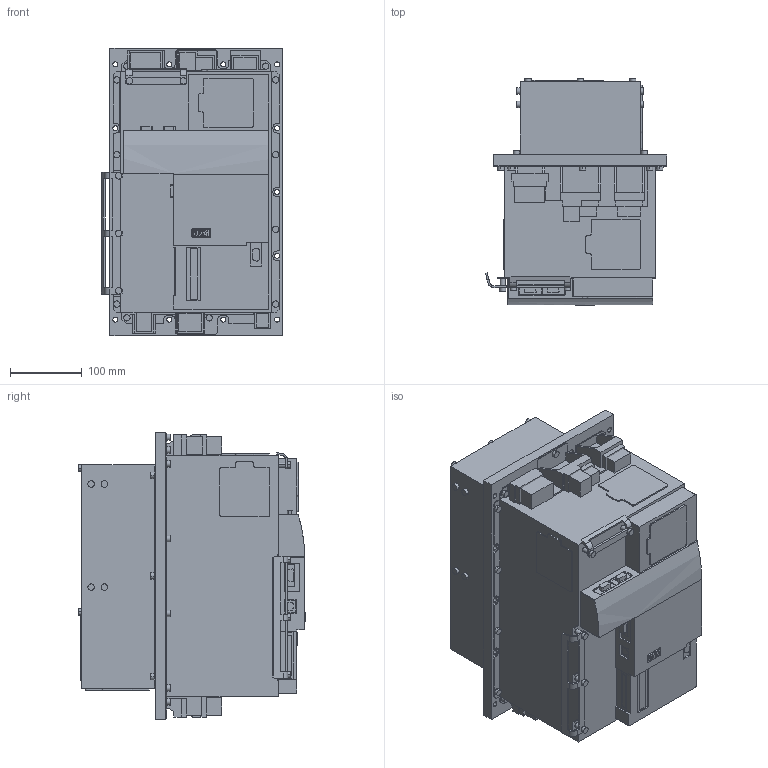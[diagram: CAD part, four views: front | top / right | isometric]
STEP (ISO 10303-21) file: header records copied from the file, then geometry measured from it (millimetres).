
FILE_DESCRIPTION (( 'STEP AP214' ), '1' );
FILE_NAME ('Realtime Ethernet.STEP', '2020-09-25T08:52:08', ( '' ), ( '' ), 'SwSTEP 2.0', 'SolidWorks 2019', '' );
FILE_SCHEMA (( 'AUTOMOTIVE_DESIGN' ));
Length unit declared in the file: millimetre
Products named in the file (12): 10061757_000; Realtime Ethernet; 10061712_000; 10061699_000; 10061123_000_Kundenmodell; 10061174_000; 10014308_000; 10061177_000; 10060997_000_Kundenmodell; 10061106_000_Kundenmodell; 10061131_000_Kundenmodell; 10061067_000_Kundenmodell
Assembly tree (11 placements, depth 3):
  Realtime Ethernet
    10061067_000_Kundenmodell
      10061712_000
    10061123_000_Kundenmodell
      10061757_000
    10060997_000_Kundenmodell
      10061699_000
    10061106_000_Kundenmodell
      10061174_000
    10061131_000_Kundenmodell
      10014308_000
      10061177_000
Bounding box: 251.83 x 315.93 x 400 mm (x, y, z)
Volume: 21484400 mm3; surface area: 1106074.7 mm2
Topology: 12 solids, 15 shells, 1354 faces, 3705 edges, 2446 vertices
Faces by surface type: plane 861, cylinder 432, bspline 44, torus 9, cone 8
Entity records: 46068 total; most frequent: CARTESIAN_POINT 9876, ORIENTED_EDGE 7410, DIRECTION 6985, EDGE_CURVE 3705, VECTOR 2623, LINE 2623, VERTEX_POINT 2446, AXIS2_PLACEMENT_3D 2181
